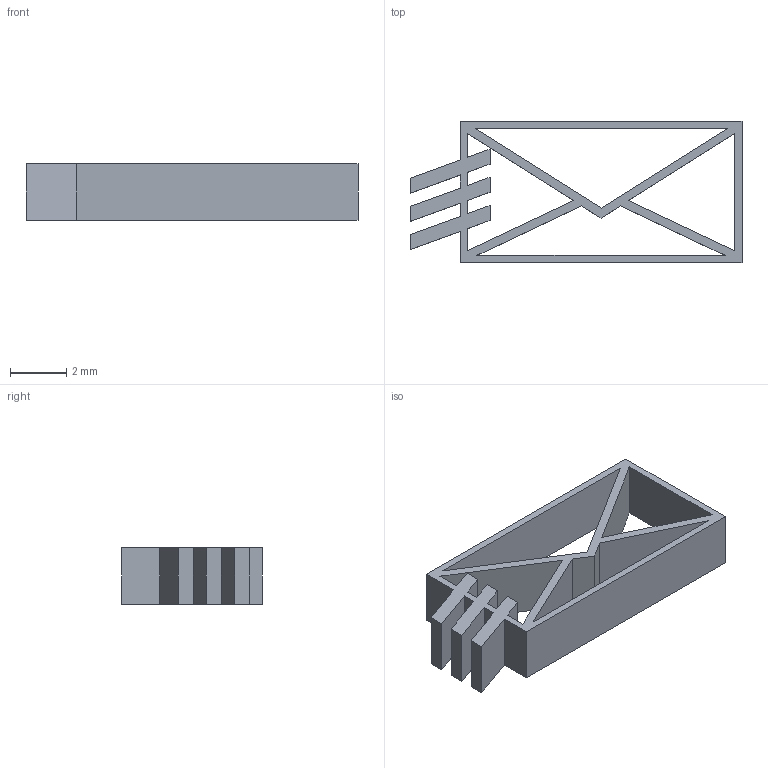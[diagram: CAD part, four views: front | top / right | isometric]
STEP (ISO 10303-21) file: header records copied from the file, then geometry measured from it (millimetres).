
FILE_DESCRIPTION (( 'STEP AP203' ), '1' );
FILE_NAME ('Email.STEP', '2009-02-16T15:43:50', ( ' ' ), ( ' ' ), 'SwSTEP 2.0', 'SolidWorks 2008', '' );
FILE_SCHEMA (( 'CONFIG_CONTROL_DESIGN' ));
Length unit declared in the file: millimetre
Products named in the file (1): Email
Bounding box: 11.77 x 5 x 2 mm (x, y, z)
Volume: 34.5 mm3; surface area: 254.9 mm2
Topology: 1 solids, 1 shells, 44 faces, 126 edges, 84 vertices
Faces by surface type: plane 44
Entity records: 1503 total; most frequent: CARTESIAN_POINT 255, ORIENTED_EDGE 252, DIRECTION 216, EDGE_CURVE 126, LINE 126, VECTOR 126, VERTEX_POINT 84, EDGE_LOOP 52
